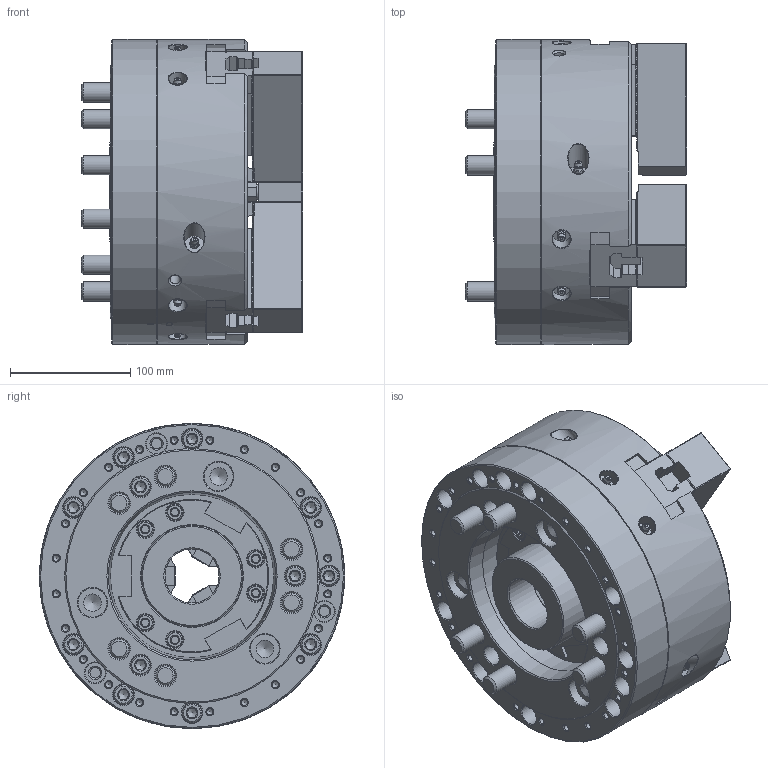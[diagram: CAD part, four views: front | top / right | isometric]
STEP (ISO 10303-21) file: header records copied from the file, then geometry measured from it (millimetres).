
FILE_DESCRIPTION (( 'STEP AP214' ), '1' );
FILE_NAME ('DT1_HOH-10K_OUTSIDE_VIEW_HOL.STEP', '2024-05-09T04:28:03', ( '' ), ( '' ), 'SwSTEP 2.0', 'SolidWorks 2022', '' );
FILE_SCHEMA (( 'AUTOMOTIVE_DESIGN' ));
Length unit declared in the file: millimetre
Products named in the file (9): DT1_HOH-10K_M6x12^DT1_HOH-10K_ﾃﾞﾌｫﾙﾄ; DT1_HOH-10K_DRAWNUT^DT1_HOH-10K_ﾃﾞﾌｫﾙﾄ; DT1_HOH-10K_SOFTJAW^DT1_HOH-10K_ﾃﾞﾌｫﾙﾄ; DT1_HOH-10K_M12x35^DT1_HOH-10K_ﾃﾞﾌｫﾙﾄ; DT1_HOH-10K_COVER^DT1_HOH-10K_ﾃﾞﾌｫﾙﾄ; DT1_HOH-10K_TNUT^DT1_HOH-10K_ﾃﾞﾌｫﾙﾄ; DT1_HOH-10K_OUTSIDE_VIEW_HOL; DT1_HOH-10K_BASE^DT1_HOH-10K_ﾃﾞﾌｫﾙﾄ; DT1_HOH-10K_M16x120^DT1_HOH-10K_ﾃﾞﾌｫﾙﾄ
Assembly tree (24 placements, depth 2):
  DT1_HOH-10K_OUTSIDE_VIEW_HOL
    DT1_HOH-10K_SOFTJAW^DT1_HOH-10K_ﾃﾞﾌｫﾙﾄ  x3
    DT1_HOH-10K_TNUT^DT1_HOH-10K_ﾃﾞﾌｫﾙﾄ  x3
    DT1_HOH-10K_DRAWNUT^DT1_HOH-10K_ﾃﾞﾌｫﾙﾄ
    DT1_HOH-10K_COVER^DT1_HOH-10K_ﾃﾞﾌｫﾙﾄ
    DT1_HOH-10K_BASE^DT1_HOH-10K_ﾃﾞﾌｫﾙﾄ
    DT1_HOH-10K_M6x12^DT1_HOH-10K_ﾃﾞﾌｫﾙﾄ  x3
    DT1_HOH-10K_M12x35^DT1_HOH-10K_ﾃﾞﾌｫﾙﾄ  x6
    DT1_HOH-10K_M16x120^DT1_HOH-10K_ﾃﾞﾌｫﾙﾄ  x6
Bounding box: 184 x 254 x 254 mm (x, y, z)
Volume: 5494071.8 mm3; surface area: 588596.3 mm2
Topology: 24 solids, 30 shells, 4292 faces, 11931 edges, 7829 vertices
Faces by surface type: plane 3148, cylinder 591, cone 374, bspline 131, torus 39, sphere 9
Full cylindrical faces by diameter (mm): 2 x9, 5 x3, 5.2 x24, 6 x3, 6.6 x3, 8.6 x5, 10.2 x6, 10.22 x3, 11 x3, 12 x6, 13 x6, 13.27 x6, 14 x6, 15 x6, 16 x6, 16.27 x12, 17 x30, 18.27 x6, 19 x6, 24.21 x3, 24.33 x6, 25 x6, 45 x1, 65 x2, 70 x2, 76.4 x1, 84.5 x2, 92 x2, 136 x1, 244 x1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
Entity records: 126080 total; most frequent: CARTESIAN_POINT 47515, ORIENTED_EDGE 17106, DIRECTION 14089, EDGE_CURVE 8553, VECTOR 6157, LINE 6157, VERTEX_POINT 5812, AXIS2_PLACEMENT_3D 3966
